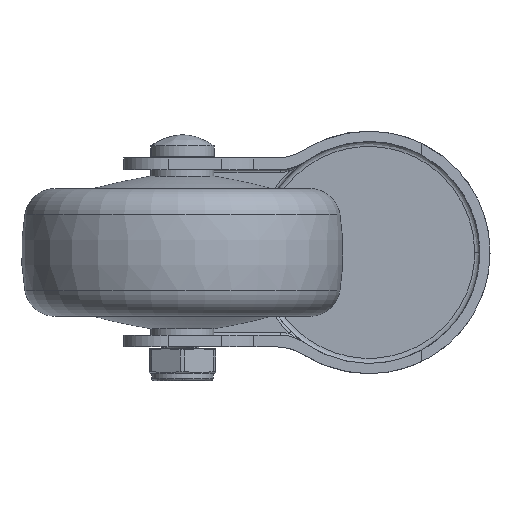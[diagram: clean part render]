
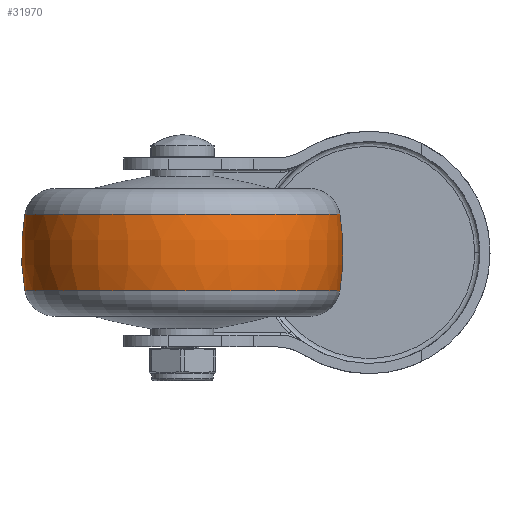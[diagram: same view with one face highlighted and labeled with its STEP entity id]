
A CAD part, front view. The second image highlights one B-rep face of the part: STEP entity #31970.
In plain terms, the highlighted toroidal (fillet/blend) face has major radius 13.5 mm and minor radius 45 mm.
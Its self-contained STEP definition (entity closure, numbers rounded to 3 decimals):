
#6924 = VERTEX_POINT ( 'NONE', #75948 ) ;
#8452 = DIRECTION ( 'NONE',  ( 1., 0., 0. ) ) ;
#8503 = CIRCLE ( 'NONE', #48263, 45. ) ;
#8743 = ORIENTED_EDGE ( 'NONE', *, *, #33232, .F. ) ;
#9337 = AXIS2_PLACEMENT_3D ( 'NONE', #48723, #55357, #8452 ) ;
#10297 = ORIENTED_EDGE ( 'NONE', *, *, #12206, .F. ) ;
#12206 = EDGE_CURVE ( 'NONE', #47272, #73126, #8503, .T. ) ;
#12292 = VERTEX_POINT ( 'NONE', #22869 ) ;
#14335 = EDGE_LOOP ( 'NONE', ( #10297, #46968, #22427, #8743 ) ) ;
#16220 = DIRECTION ( 'NONE',  ( 0., 0., -1. ) ) ;
#21713 = CARTESIAN_POINT ( 'NONE',  ( -13.5, 0., 0. ) ) ;
#22427 = ORIENTED_EDGE ( 'NONE', *, *, #83308, .T. ) ;
#22869 = CARTESIAN_POINT ( 'NONE',  ( 30.871, 0., 7.5 ) ) ;
#31970 = ADVANCED_FACE ( 'NONE', ( #54648 ), #32985, .T. ) ;
#32985 = TOROIDAL_SURFACE ( 'NONE', #58414, -13.5, 45. ) ;
#33232 = EDGE_CURVE ( 'NONE', #73126, #12292, #51213, .T. ) ;
#34357 = DIRECTION ( 'NONE',  ( 0., 0., 1. ) ) ;
#35088 = CARTESIAN_POINT ( 'NONE',  ( -30.871, 0., 7.5 ) ) ;
#39270 = CARTESIAN_POINT ( 'NONE',  ( 0., 0., 0. ) ) ;
#39635 = CIRCLE ( 'NONE', #58538, 30.871 ) ;
#46131 = CARTESIAN_POINT ( 'NONE',  ( -30.871, 0., -7.5 ) ) ;
#46968 = ORIENTED_EDGE ( 'NONE', *, *, #53832, .T. ) ;
#47272 = VERTEX_POINT ( 'NONE', #46131 ) ;
#47589 = DIRECTION ( 'NONE',  ( 1., 0., 0. ) ) ;
#48263 = AXIS2_PLACEMENT_3D ( 'NONE', #68916, #48498, #54846 ) ;
#48498 = DIRECTION ( 'NONE',  ( 0., 1., 0. ) ) ;
#48723 = CARTESIAN_POINT ( 'NONE',  ( 0., 0., 7.5 ) ) ;
#51213 = CIRCLE ( 'NONE', #9337, 30.871 ) ;
#53832 = EDGE_CURVE ( 'NONE', #47272, #6924, #39635, .T. ) ;
#54648 = FACE_OUTER_BOUND ( 'NONE', #14335, .T. ) ;
#54846 = DIRECTION ( 'NONE',  ( -1., 0., 0. ) ) ;
#55357 = DIRECTION ( 'NONE',  ( 0., 0., 1. ) ) ;
#58414 = AXIS2_PLACEMENT_3D ( 'NONE', #39270, #34357, #47589 ) ;
#58538 = AXIS2_PLACEMENT_3D ( 'NONE', #81567, #61162, #81850 ) ;
#61153 = DIRECTION ( 'NONE',  ( 0., -1., 0. ) ) ;
#61162 = DIRECTION ( 'NONE',  ( 0., 0., 1. ) ) ;
#66075 = CIRCLE ( 'NONE', #77630, 45. ) ;
#68916 = CARTESIAN_POINT ( 'NONE',  ( 13.5, 0., 0. ) ) ;
#73126 = VERTEX_POINT ( 'NONE', #35088 ) ;
#75948 = CARTESIAN_POINT ( 'NONE',  ( 30.871, 0., -7.5 ) ) ;
#77630 = AXIS2_PLACEMENT_3D ( 'NONE', #21713, #61153, #16220 ) ;
#81567 = CARTESIAN_POINT ( 'NONE',  ( 0., 0., -7.5 ) ) ;
#81850 = DIRECTION ( 'NONE',  ( 1., 0., 0. ) ) ;
#83308 = EDGE_CURVE ( 'NONE', #6924, #12292, #66075, .T. ) ;
